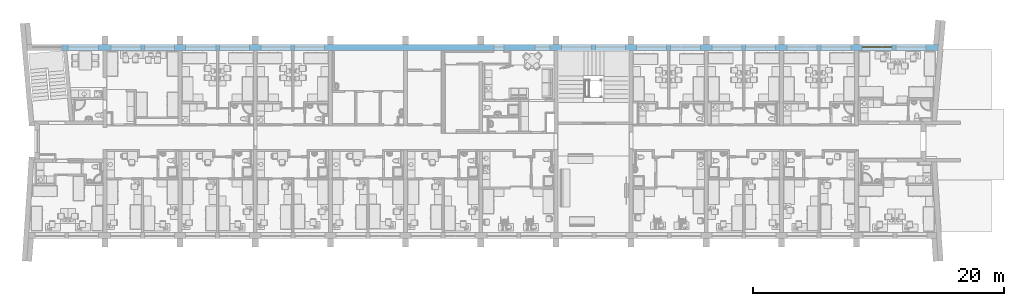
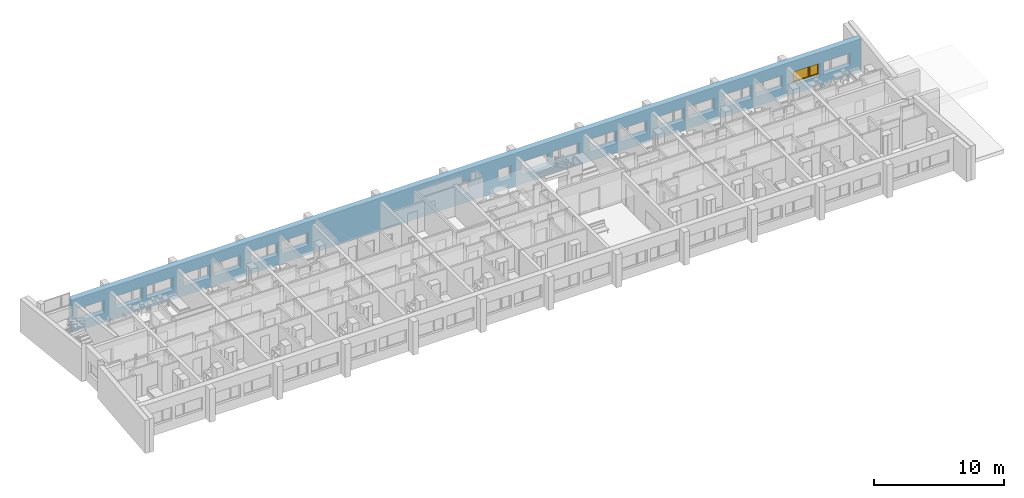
# One storey, part 32 of 172: 1 window, 19 openings, plus 1 element that does not belong to this part.
"""IFC2X3 building model written with IfcOpenShell, lengths in millimetres."""

from ifc_helpers import new_model, entity, si_unit, converted_unit, money_unit, direction, frame, origin_with_axes, place, context, subcontext, project, spatial, polyline, outline, extrude, open_shell, faceted_brep, surface_model, source, transform, mapped, material, material_list, layer, layer_set, layer_usage, type_object, element, fill, save


model = new_model("IFC2X3")

# Units and contexts
model_context = context("Model", 3, precision=1e-05, world=origin_with_axes(), true_north=direction((0.0, 1.0)))
body_context = subcontext(model_context, "Body", "Model", "MODEL_VIEW")
ifc_project = project(units=[si_unit("LENGTHUNIT", "METRE", prefix="MILLI"), si_unit("AREAUNIT", "SQUARE_METRE"), si_unit("VOLUMEUNIT", "CUBIC_METRE"), converted_unit("PLANEANGLEUNIT", "DEGREE", entity("IfcPlaneAngleMeasure", 0.0174532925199), si_unit("PLANEANGLEUNIT", "RADIAN"), dimensions=[0, 0, 0, 0, 0, 0, 0]), si_unit("SOLIDANGLEUNIT", "STERADIAN"), money_unit("USD"), converted_unit("TIMEUNIT", "Year", entity("IfcTimeMeasure", 31556926.0), si_unit("TIMEUNIT", "SECOND"), dimensions=[0, 0, 0, 0, 0, 0, 0]), si_unit("MASSUNIT", "GRAM"), si_unit("THERMODYNAMICTEMPERATUREUNIT", "DEGREE_CELSIUS"), si_unit("LUMINOUSINTENSITYUNIT", "LUMEN")], contexts=[model_context])

# Site, building, storey
site_placement = place(None, origin_with_axes())
site = spatial("IfcSite", under=ifc_project, at=site_placement, Name="Site", CompositionType="ELEMENT")
building_placement = place(site_placement, origin_with_axes())
building = spatial("IfcBuilding", under=site, at=building_placement, Name="Building", CompositionType="ELEMENT")
storey_placement = place(building_placement, frame((0.0, 0.0, 3200.0), z_axis=(0.0, 0.0, 1.0), x_axis=(1.0, 0.0, 0.0)))
storey = spatial("IfcBuildingStorey", under=building, at=storey_placement, Name="3KORRUS", CompositionType="ELEMENT", Elevation=3200.0)

# Wall, openings, window
ifc_material_1 = material(Name="Olemasolevad seinad tellis, uus viimistlus")
ifc_layer = layer(ifc_material_1, 500.0, ventilated="UNKNOWN")
ifc_layer_set = layer_set([ifc_layer], Name="Olemasolevad seinad tellis, uus viimistlus 500")
ifc_layer_usage = layer_usage(ifc_layer_set, "AXIS2", "POSITIVE", -100.0)
wall_type = type_object("IfcWallType", Name="Olemasolevad seinad tellis, uus viimistlus 500", PredefinedType="NOTDEFINED")
wall_placement = place(storey_placement, frame((-51569.3388124, -5039.6041088, 0.0), z_axis=(0.0, 0.0, 1.0), x_axis=(1.0, 0.0, 0.0)))
wall = element("IfcWallStandardCase", 1, at=wall_placement, inside=storey, type_object=wall_type, material=ifc_layer_usage, Name="VS1", ObjectType="VS1", context=body_context, shape_type="SweptSolid", body=[
    extrude(outline(polyline([(0.0, -100.0), (69914.7195482, -100.0), (69959.6995146, 400.0), (0.0, 400.0), (0.0, -100.0)])), origin_with_axes(), (0.0, 0.0, 1.0), 3100.0),
])
opening_1_placement = place(wall_placement, frame((34879.0421091, 0.0, 900.0), z_axis=(0.0, 0.0, 1.0), x_axis=(1.0, 0.0, 0.0)))
element("IfcOpeningElement", 2, at=opening_1_placement, cuts=wall, Name="WD - 001", context=body_context, shape_type="SweptSolid", body=[
    extrude(outline(polyline([(-400.0, 1200.0), (-400.0, 0.0), (400.0, 0.0), (400.0, 1200.0), (-400.0, 1200.0)])), frame((0.0, 200.0, 0.0), z_axis=(0.0, -1.0, 0.0), x_axis=(1.0, 0.0, 0.0)), (0.0, 0.0, 1.0), 800.0),
    extrude(outline(polyline([(-400.0, 0.0), (-400.0, -1200.0), (400.0, -1200.0), (400.0, 0.0), (-400.0, 0.0)])), frame((0.0, 200.0, 0.0), z_axis=(0.0, 1.0, 0.0), x_axis=(1.0, 0.0, 0.0)), (0.0, 0.0, 1.0), 700.0),
])
opening_2_placement = place(wall_placement, frame((38352.6323068, 0.0, 900.0), z_axis=(0.0, 0.0, 1.0), x_axis=(1.0, 0.0, 0.0)))
element("IfcOpeningElement", 3, at=opening_2_placement, cuts=wall, Name="A3", context=body_context, shape_type="SweptSolid", body=[
    extrude(outline(polyline([(-600.0, 1200.0), (-600.0, 0.0), (600.0, 0.0), (600.0, 1200.0), (-600.0, 1200.0)])), frame((0.0, 200.0, 0.0), z_axis=(0.0, -1.0, 0.0), x_axis=(1.0, 0.0, 0.0)), (0.0, 0.0, 1.0), 800.0),
    extrude(outline(polyline([(-600.0, 0.0), (-600.0, -1200.0), (600.0, -1200.0), (600.0, 0.0), (-600.0, 0.0)])), frame((0.0, 200.0, 0.0), z_axis=(0.0, 1.0, 0.0), x_axis=(1.0, 0.0, 0.0)), (0.0, 0.0, 1.0), 700.0),
])
opening_3_placement = place(wall_placement, frame((1700.0, 0.0, 900.0), z_axis=(0.0, 0.0, 1.0), x_axis=(1.0, 0.0, 0.0)))
element("IfcOpeningElement", 4, at=opening_3_placement, cuts=wall, Name="A1", context=body_context, shape_type="SweptSolid", body=[
    extrude(outline(polyline([(1200.0, 1200.0), (-1200.0, 1200.0), (-1200.0, 0.0), (1200.0, 0.0), (1200.0, 1200.0)])), frame((0.0, 200.0, 0.0), z_axis=(0.0, -1.0, 0.0), x_axis=(1.0, 0.0, 0.0)), (0.0, 0.0, 1.0), 800.0),
    extrude(outline(polyline([(1200.0, 0.0), (-1200.0, 0.0), (-1200.0, -1200.0), (1200.0, -1200.0), (1200.0, 0.0)])), frame((0.0, 200.0, 0.0), z_axis=(0.0, 1.0, 0.0), x_axis=(1.0, 0.0, 0.0)), (0.0, 0.0, 1.0), 700.0),
])
opening_4_placement = place(wall_placement, frame((7795.91085613, 0.0, 900.0), z_axis=(0.0, 0.0, 1.0), x_axis=(1.0, 0.0, 0.0)))
element("IfcOpeningElement", 5, at=opening_4_placement, cuts=wall, Name="A1", context=body_context, shape_type="SweptSolid", body=[
    extrude(outline(polyline([(1200.0, 1200.0), (-1200.0, 1200.0), (-1200.0, 0.0), (1200.0, 0.0), (1200.0, 1200.0)])), frame((0.0, 200.0, 0.0), z_axis=(0.0, -1.0, 0.0), x_axis=(1.0, 0.0, 0.0)), (0.0, 0.0, 1.0), 800.0),
    extrude(outline(polyline([(1200.0, 0.0), (-1200.0, 0.0), (-1200.0, -1200.0), (1200.0, -1200.0), (1200.0, 0.0)])), frame((0.0, 200.0, 0.0), z_axis=(0.0, 1.0, 0.0), x_axis=(1.0, 0.0, 0.0)), (0.0, 0.0, 1.0), 700.0),
])
opening_5_placement = place(wall_placement, frame((5095.91085613, 0.0, 900.0), z_axis=(0.0, 0.0, 1.0), x_axis=(1.0, 0.0, 0.0)))
element("IfcOpeningElement", 6, at=opening_5_placement, cuts=wall, Name="A2", context=body_context, shape_type="SweptSolid", body=[
    extrude(outline(polyline([(-1200.0, 1200.0), (-1200.0, 0.0), (1200.0, 0.0), (1200.0, 1200.0), (-1200.0, 1200.0)])), frame((0.0, 200.0, 0.0), z_axis=(0.0, -1.0, 0.0), x_axis=(1.0, 0.0, 0.0)), (0.0, 0.0, 1.0), 800.0),
    extrude(outline(polyline([(-1200.0, 0.0), (-1200.0, -1200.0), (1200.0, -1200.0), (1200.0, 0.0), (-1200.0, 0.0)])), frame((0.0, 200.0, 0.0), z_axis=(0.0, 1.0, 0.0), x_axis=(1.0, 0.0, 0.0)), (0.0, 0.0, 1.0), 700.0),
])
opening_6_placement = place(wall_placement, frame((13779.0421091, 0.0, 900.0), z_axis=(0.0, 0.0, 1.0), x_axis=(1.0, 0.0, 0.0)))
element("IfcOpeningElement", 7, at=opening_6_placement, cuts=wall, Name="A1", context=body_context, shape_type="SweptSolid", body=[
    extrude(outline(polyline([(1200.0, 1200.0), (-1200.0, 1200.0), (-1200.0, 0.0), (1200.0, 0.0), (1200.0, 1200.0)])), frame((0.0, 200.0, 0.0), z_axis=(0.0, -1.0, 0.0), x_axis=(1.0, 0.0, 0.0)), (0.0, 0.0, 1.0), 800.0),
    extrude(outline(polyline([(1200.0, 0.0), (-1200.0, 0.0), (-1200.0, -1200.0), (1200.0, -1200.0), (1200.0, 0.0)])), frame((0.0, 200.0, 0.0), z_axis=(0.0, 1.0, 0.0), x_axis=(1.0, 0.0, 0.0)), (0.0, 0.0, 1.0), 700.0),
])
opening_7_placement = place(wall_placement, frame((11079.0421091, 0.0, 900.0), z_axis=(0.0, 0.0, 1.0), x_axis=(1.0, 0.0, 0.0)))
element("IfcOpeningElement", 8, at=opening_7_placement, cuts=wall, Name="A2", context=body_context, shape_type="SweptSolid", body=[
    extrude(outline(polyline([(-1200.0, 1200.0), (-1200.0, 0.0), (1200.0, 0.0), (1200.0, 1200.0), (-1200.0, 1200.0)])), frame((0.0, 200.0, 0.0), z_axis=(0.0, -1.0, 0.0), x_axis=(1.0, 0.0, 0.0)), (0.0, 0.0, 1.0), 800.0),
    extrude(outline(polyline([(-1200.0, 0.0), (-1200.0, -1200.0), (1200.0, -1200.0), (1200.0, 0.0), (-1200.0, 0.0)])), frame((0.0, 200.0, 0.0), z_axis=(0.0, 1.0, 0.0), x_axis=(1.0, 0.0, 0.0)), (0.0, 0.0, 1.0), 700.0),
])
opening_8_placement = place(wall_placement, frame((43769.0421091, 0.0, 900.0), z_axis=(0.0, 0.0, 1.0), x_axis=(1.0, 0.0, 0.0)))
element("IfcOpeningElement", 9, at=opening_8_placement, cuts=wall, Name="A1", context=body_context, shape_type="SweptSolid", body=[
    extrude(outline(polyline([(1200.0, 1200.0), (-1200.0, 1200.0), (-1200.0, 0.0), (1200.0, 0.0), (1200.0, 1200.0)])), frame((0.0, 200.0, 0.0), z_axis=(0.0, -1.0, 0.0), x_axis=(1.0, 0.0, 0.0)), (0.0, 0.0, 1.0), 800.0),
    extrude(outline(polyline([(1200.0, 0.0), (-1200.0, 0.0), (-1200.0, -1200.0), (1200.0, -1200.0), (1200.0, 0.0)])), frame((0.0, 200.0, 0.0), z_axis=(0.0, 1.0, 0.0), x_axis=(1.0, 0.0, 0.0)), (0.0, 0.0, 1.0), 700.0),
])
opening_9_placement = place(wall_placement, frame((41069.0421091, 0.0, 900.0), z_axis=(0.0, 0.0, 1.0), x_axis=(1.0, 0.0, 0.0)))
element("IfcOpeningElement", 10, at=opening_9_placement, cuts=wall, Name="A2", context=body_context, shape_type="SweptSolid", body=[
    extrude(outline(polyline([(-1200.0, 1200.0), (-1200.0, 0.0), (1200.0, 0.0), (1200.0, 1200.0), (-1200.0, 1200.0)])), frame((0.0, 200.0, 0.0), z_axis=(0.0, -1.0, 0.0), x_axis=(1.0, 0.0, 0.0)), (0.0, 0.0, 1.0), 800.0),
    extrude(outline(polyline([(-1200.0, 0.0), (-1200.0, -1200.0), (1200.0, -1200.0), (1200.0, 0.0), (-1200.0, 0.0)])), frame((0.0, 200.0, 0.0), z_axis=(0.0, 1.0, 0.0), x_axis=(1.0, 0.0, 0.0)), (0.0, 0.0, 1.0), 700.0),
])
opening_10_placement = place(wall_placement, frame((49769.0421091, 0.0, 900.0), z_axis=(0.0, 0.0, 1.0), x_axis=(1.0, 0.0, 0.0)))
element("IfcOpeningElement", 11, at=opening_10_placement, cuts=wall, Name="A1", context=body_context, shape_type="SweptSolid", body=[
    extrude(outline(polyline([(1200.0, 1200.0), (-1200.0, 1200.0), (-1200.0, 0.0), (1200.0, 0.0), (1200.0, 1200.0)])), frame((0.0, 200.0, 0.0), z_axis=(0.0, -1.0, 0.0), x_axis=(1.0, 0.0, 0.0)), (0.0, 0.0, 1.0), 800.0),
    extrude(outline(polyline([(1200.0, 0.0), (-1200.0, 0.0), (-1200.0, -1200.0), (1200.0, -1200.0), (1200.0, 0.0)])), frame((0.0, 200.0, 0.0), z_axis=(0.0, 1.0, 0.0), x_axis=(1.0, 0.0, 0.0)), (0.0, 0.0, 1.0), 700.0),
])
opening_11_placement = place(wall_placement, frame((47069.0421091, 0.0, 900.0), z_axis=(0.0, 0.0, 1.0), x_axis=(1.0, 0.0, 0.0)))
element("IfcOpeningElement", 12, at=opening_11_placement, cuts=wall, Name="A2", context=body_context, shape_type="SweptSolid", body=[
    extrude(outline(polyline([(-1200.0, 1200.0), (-1200.0, 0.0), (1200.0, 0.0), (1200.0, 1200.0), (-1200.0, 1200.0)])), frame((0.0, 200.0, 0.0), z_axis=(0.0, -1.0, 0.0), x_axis=(1.0, 0.0, 0.0)), (0.0, 0.0, 1.0), 800.0),
    extrude(outline(polyline([(-1200.0, 0.0), (-1200.0, -1200.0), (1200.0, -1200.0), (1200.0, 0.0), (-1200.0, 0.0)])), frame((0.0, 200.0, 0.0), z_axis=(0.0, 1.0, 0.0), x_axis=(1.0, 0.0, 0.0)), (0.0, 0.0, 1.0), 700.0),
])
opening_12_placement = place(wall_placement, frame((55769.0421091, 0.0, 900.0), z_axis=(0.0, 0.0, 1.0), x_axis=(1.0, 0.0, 0.0)))
element("IfcOpeningElement", 13, at=opening_12_placement, cuts=wall, Name="A1", context=body_context, shape_type="SweptSolid", body=[
    extrude(outline(polyline([(1200.0, 1200.0), (-1200.0, 1200.0), (-1200.0, 0.0), (1200.0, 0.0), (1200.0, 1200.0)])), frame((0.0, 200.0, 0.0), z_axis=(0.0, -1.0, 0.0), x_axis=(1.0, 0.0, 0.0)), (0.0, 0.0, 1.0), 800.0),
    extrude(outline(polyline([(1200.0, 0.0), (-1200.0, 0.0), (-1200.0, -1200.0), (1200.0, -1200.0), (1200.0, 0.0)])), frame((0.0, 200.0, 0.0), z_axis=(0.0, 1.0, 0.0), x_axis=(1.0, 0.0, 0.0)), (0.0, 0.0, 1.0), 700.0),
])
opening_13_placement = place(wall_placement, frame((53069.0421091, 0.0, 900.0), z_axis=(0.0, 0.0, 1.0), x_axis=(1.0, 0.0, 0.0)))
element("IfcOpeningElement", 14, at=opening_13_placement, cuts=wall, Name="A2", context=body_context, shape_type="SweptSolid", body=[
    extrude(outline(polyline([(-1200.0, 1200.0), (-1200.0, 0.0), (1200.0, 0.0), (1200.0, 1200.0), (-1200.0, 1200.0)])), frame((0.0, 200.0, 0.0), z_axis=(0.0, -1.0, 0.0), x_axis=(1.0, 0.0, 0.0)), (0.0, 0.0, 1.0), 800.0),
    extrude(outline(polyline([(-1200.0, 0.0), (-1200.0, -1200.0), (1200.0, -1200.0), (1200.0, 0.0), (-1200.0, 0.0)])), frame((0.0, 200.0, 0.0), z_axis=(0.0, 1.0, 0.0), x_axis=(1.0, 0.0, 0.0)), (0.0, 0.0, 1.0), 700.0),
])
opening_14_placement = place(wall_placement, frame((61769.0421091, 0.0, 900.0), z_axis=(0.0, 0.0, 1.0), x_axis=(1.0, 0.0, 0.0)))
element("IfcOpeningElement", 15, at=opening_14_placement, cuts=wall, Name="A1", context=body_context, shape_type="SweptSolid", body=[
    extrude(outline(polyline([(1200.0, 1200.0), (-1200.0, 1200.0), (-1200.0, 0.0), (1200.0, 0.0), (1200.0, 1200.0)])), frame((0.0, 200.0, 0.0), z_axis=(0.0, -1.0, 0.0), x_axis=(1.0, 0.0, 0.0)), (0.0, 0.0, 1.0), 800.0),
    extrude(outline(polyline([(1200.0, 0.0), (-1200.0, 0.0), (-1200.0, -1200.0), (1200.0, -1200.0), (1200.0, 0.0)])), frame((0.0, 200.0, 0.0), z_axis=(0.0, 1.0, 0.0), x_axis=(1.0, 0.0, 0.0)), (0.0, 0.0, 1.0), 700.0),
])
opening_15_placement = place(wall_placement, frame((59069.0421091, 0.0, 900.0), z_axis=(0.0, 0.0, 1.0), x_axis=(1.0, 0.0, 0.0)))
element("IfcOpeningElement", 16, at=opening_15_placement, cuts=wall, Name="A2", context=body_context, shape_type="SweptSolid", body=[
    extrude(outline(polyline([(-1200.0, 1200.0), (-1200.0, 0.0), (1200.0, 0.0), (1200.0, 1200.0), (-1200.0, 1200.0)])), frame((0.0, 200.0, 0.0), z_axis=(0.0, -1.0, 0.0), x_axis=(1.0, 0.0, 0.0)), (0.0, 0.0, 1.0), 800.0),
    extrude(outline(polyline([(-1200.0, 0.0), (-1200.0, -1200.0), (1200.0, -1200.0), (1200.0, 0.0), (-1200.0, 0.0)])), frame((0.0, 200.0, 0.0), z_axis=(0.0, 1.0, 0.0), x_axis=(1.0, 0.0, 0.0)), (0.0, 0.0, 1.0), 700.0),
])
opening_16_placement = place(wall_placement, frame((67773.3244043, 0.0, 900.0), z_axis=(0.0, 0.0, 1.0), x_axis=(1.0, 0.0, 0.0)))
element("IfcOpeningElement", 17, at=opening_16_placement, cuts=wall, Name="A1", context=body_context, shape_type="SweptSolid", body=[
    extrude(outline(polyline([(1200.0, 1200.0), (-1200.0, 1200.0), (-1200.0, 0.0), (1200.0, 0.0), (1200.0, 1200.0)])), frame((0.0, 200.0, 0.0), z_axis=(0.0, -1.0, 0.0), x_axis=(1.0, 0.0, 0.0)), (0.0, 0.0, 1.0), 800.0),
    extrude(outline(polyline([(1200.0, 0.0), (-1200.0, 0.0), (-1200.0, -1200.0), (1200.0, -1200.0), (1200.0, 0.0)])), frame((0.0, 200.0, 0.0), z_axis=(0.0, 1.0, 0.0), x_axis=(1.0, 0.0, 0.0)), (0.0, 0.0, 1.0), 700.0),
])
opening_17_placement = place(wall_placement, frame((65073.3244043, 0.0, 900.0), z_axis=(0.0, 0.0, 1.0), x_axis=(1.0, 0.0, 0.0)))
opening_17 = element("IfcOpeningElement", 18, at=opening_17_placement, cuts=wall, Name="A2", context=body_context, shape_type="SweptSolid", body=[
    extrude(outline(polyline([(-1200.0, 1200.0), (-1200.0, 0.0), (1200.0, 0.0), (1200.0, 1200.0), (-1200.0, 1200.0)])), frame((0.0, 200.0, 0.0), z_axis=(0.0, -1.0, 0.0), x_axis=(1.0, 0.0, 0.0)), (0.0, 0.0, 1.0), 800.0),
    extrude(outline(polyline([(-1200.0, 0.0), (-1200.0, -1200.0), (1200.0, -1200.0), (1200.0, 0.0), (-1200.0, 0.0)])), frame((0.0, 200.0, 0.0), z_axis=(0.0, 1.0, 0.0), x_axis=(1.0, 0.0, 0.0)), (0.0, 0.0, 1.0), 700.0),
])
opening_18_placement = place(wall_placement, frame((19767.4765851, 0.0, 900.0), z_axis=(0.0, 0.0, 1.0), x_axis=(1.0, 0.0, 0.0)))
element("IfcOpeningElement", 19, at=opening_18_placement, cuts=wall, Name="A1", context=body_context, shape_type="SweptSolid", body=[
    extrude(outline(polyline([(1200.0, 1200.0), (-1200.0, 1200.0), (-1200.0, 0.0), (1200.0, 0.0), (1200.0, 1200.0)])), frame((0.0, 200.0, 0.0), z_axis=(0.0, -1.0, 0.0), x_axis=(1.0, 0.0, 0.0)), (0.0, 0.0, 1.0), 800.0),
    extrude(outline(polyline([(1200.0, 0.0), (-1200.0, 0.0), (-1200.0, -1200.0), (1200.0, -1200.0), (1200.0, 0.0)])), frame((0.0, 200.0, 0.0), z_axis=(0.0, 1.0, 0.0), x_axis=(1.0, 0.0, 0.0)), (0.0, 0.0, 1.0), 700.0),
])
opening_19_placement = place(wall_placement, frame((17067.4765851, 0.0, 900.0), z_axis=(0.0, 0.0, 1.0), x_axis=(1.0, 0.0, 0.0)))
element("IfcOpeningElement", 20, at=opening_19_placement, cuts=wall, Name="A2", context=body_context, shape_type="SweptSolid", body=[
    extrude(outline(polyline([(-1200.0, 1200.0), (-1200.0, 0.0), (1200.0, 0.0), (1200.0, 1200.0), (-1200.0, 1200.0)])), frame((0.0, 200.0, 0.0), z_axis=(0.0, -1.0, 0.0), x_axis=(1.0, 0.0, 0.0)), (0.0, 0.0, 1.0), 800.0),
    extrude(outline(polyline([(-1200.0, 0.0), (-1200.0, -1200.0), (1200.0, -1200.0), (1200.0, 0.0), (-1200.0, 0.0)])), frame((0.0, 200.0, 0.0), z_axis=(0.0, 1.0, 0.0), x_axis=(1.0, 0.0, 0.0)), (0.0, 0.0, 1.0), 700.0),
])
ifc_material_2 = material(Name="Background")
ifc_material_list = material_list([ifc_material_2])
window_style = type_object("IfcWindowStyle", Name="Double Window 19", ConstructionType="NOTDEFINED", OperationType="DOUBLE_PANEL_VERTICAL", ParameterTakesPrecedence=False, Sizeable=False)
shared_shape = source(origin_with_axes(), body_context, "Body", "SurfaceModel", [
    faceted_brep([(-1175.0, -200.0, 1150.0), (-1200.0, -200.0, 1150.0), (-1200.0, -250.0, 1150.0), (-1150.0, -250.0, 1150.0), (-1150.0, -225.0, 1150.0), (-1175.0, -225.0, 1150.0), (-1175.0, -200.0, 50.0), (-1200.0, -200.0, 50.0), (-1200.0, -250.0, 50.0), (-1150.0, -250.0, 50.0), (-1150.0, -225.0, 50.0), (-1175.0, -225.0, 50.0)], [[[0, 1, 2, 3, 4, 5]], [[6, 7, 1, 0]], [[1, 7, 8, 2]], [[2, 8, 9, 3]], [[4, 3, 9, 10]], [[10, 11, 5, 4]], [[5, 11, 6, 0]], [[11, 10, 9, 8, 7, 6]]]),
    faceted_brep([(1150.0, -225.0, 1150.0), (1150.0, -250.0, 1150.0), (1200.0, -250.0, 1150.0), (1200.0, -200.0, 1150.0), (1175.0, -200.0, 1150.0), (1175.0, -225.0, 1150.0), (1150.0, -225.0, 50.0), (1150.0, -250.0, 50.0), (1200.0, -250.0, 50.0), (1200.0, -200.0, 50.0), (1175.0, -200.0, 50.0), (1175.0, -225.0, 50.0)], [[[0, 1, 2, 3, 4, 5]], [[6, 7, 1, 0]], [[8, 2, 1, 7]], [[9, 3, 2, 8]], [[4, 3, 9, 10]], [[10, 11, 5, 4]], [[5, 11, 6, 0]], [[11, 10, 9, 8, 7, 6]]]),
    faceted_brep([(350.0, -225.0, 1150.0), (350.0, -250.0, 1150.0), (450.0, -250.0, 1150.0), (450.0, -225.0, 1150.0), (425.0, -225.0, 1150.0), (425.0, -200.0, 1150.0), (375.0, -200.0, 1150.0), (375.0, -225.0, 1150.0), (350.0, -225.0, 50.0), (350.0, -250.0, 50.0), (450.0, -250.0, 50.0), (450.0, -225.0, 50.0), (425.0, -225.0, 50.0), (425.0, -200.0, 50.0), (375.0, -200.0, 50.0), (375.0, -225.0, 50.0)], [[[0, 1, 2, 3, 4, 5, 6, 7]], [[8, 9, 1, 0]], [[10, 2, 1, 9]], [[3, 2, 10, 11]], [[11, 12, 4, 3]], [[4, 12, 13, 5]], [[6, 5, 13, 14]], [[14, 15, 7, 6]], [[7, 15, 8, 0]], [[15, 14, 13, 12, 11, 10, 9, 8]]]),
    faceted_brep([(350.0, -225.0, 50.0), (350.0, -250.0, 50.0), (450.0, -250.0, 50.0), (450.0, -225.0, 50.0), (425.0, -225.0, 50.0), (425.0, -200.0, 50.0), (375.0, -200.0, 50.0), (375.0, -225.0, 50.0), (-1150.0, -225.0, 50.0), (-1150.0, -250.0, 50.0), (-1200.0, -250.0, 50.0), (-1200.0, -250.0, 0.0), (1200.0, -250.0, 0.0), (1200.0, -250.0, 50.0), (1150.0, -250.0, 50.0), (1150.0, -225.0, 50.0), (1175.0, -225.0, 50.0), (1175.0, -225.0, 25.0), (425.0, -225.0, 25.0), (425.0, -200.0, 25.0), (-1175.0, -200.0, 25.0), (375.0, -200.0, 25.0), (1175.0, -200.0, 25.0), (1175.0, -200.0, 50.0), (1200.0, -200.0, 50.0), (1200.0, -200.0, 0.0), (-1200.0, -200.0, 0.0), (-1200.0, -200.0, 50.0), (-1175.0, -200.0, 50.0), (375.0, -225.0, 25.0), (-1175.0, -225.0, 25.0), (-1175.0, -225.0, 50.0)], [[[0, 1, 2, 3, 4, 5, 6, 7]], [[8, 9, 1, 0]], [[10, 11, 12, 13, 14, 2, 1, 9]], [[3, 2, 14, 15]], [[16, 17, 18, 4, 3, 15]], [[4, 18, 19, 5]], [[20, 21, 6, 5, 19, 22, 23, 24, 25, 26, 27, 28]], [[21, 29, 7, 6]], [[7, 29, 30, 31, 8, 0]], [[31, 28, 27, 10, 9, 8]], [[27, 26, 11, 10]], [[26, 25, 12, 11]], [[25, 24, 13, 12]], [[15, 14, 13, 24, 23, 16]], [[22, 17, 16, 23]], [[19, 18, 17, 22]], [[20, 30, 29, 21]], [[31, 30, 20, 28]]]),
    faceted_brep([(-1175.0, -200.0, 1150.0), (-1200.0, -200.0, 1150.0), (-1200.0, -200.0, 1200.0), (1200.0, -200.0, 1200.0), (1200.0, -200.0, 1150.0), (1175.0, -200.0, 1150.0), (1175.0, -200.0, 1175.0), (425.0, -200.0, 1175.0), (425.0, -200.0, 1150.0), (375.0, -200.0, 1150.0), (375.0, -200.0, 1175.0), (-1175.0, -200.0, 1175.0), (-1175.0, -225.0, 1150.0), (-1150.0, -225.0, 1150.0), (-1150.0, -250.0, 1150.0), (-1200.0, -250.0, 1150.0), (-1200.0, -250.0, 1200.0), (1200.0, -250.0, 1200.0), (1200.0, -250.0, 1150.0), (1175.0, -225.0, 1150.0), (1150.0, -250.0, 1150.0), (1150.0, -225.0, 1150.0), (1175.0, -225.0, 1175.0), (425.0, -225.0, 1175.0), (425.0, -225.0, 1150.0), (375.0, -225.0, 1150.0), (450.0, -225.0, 1150.0), (450.0, -250.0, 1150.0), (350.0, -250.0, 1150.0), (350.0, -225.0, 1150.0), (375.0, -225.0, 1175.0), (-1175.0, -225.0, 1175.0)], [[[0, 1, 2, 3, 4, 5, 6, 7, 8, 9, 10, 11]], [[12, 13, 14, 15, 1, 0]], [[2, 1, 15, 16]], [[3, 2, 16, 17]], [[4, 3, 17, 18]], [[19, 5, 4, 18, 20, 21]], [[5, 19, 22, 6]], [[6, 22, 23, 7]], [[7, 23, 24, 8]], [[25, 9, 8, 24, 26, 27, 28, 29]], [[9, 25, 30, 10]], [[10, 30, 31, 11]], [[11, 31, 12, 0]], [[29, 13, 12, 31, 30, 25]], [[29, 28, 14, 13]], [[27, 20, 18, 17, 16, 15, 14, 28]], [[21, 20, 27, 26]], [[21, 26, 24, 23, 22, 19]]]),
    faceted_brep([(-1125.0, -225.0, 1125.0), (-1125.0, -175.0, 1125.0), (-1175.0, -175.0, 1125.0), (-1175.0, -225.0, 1125.0), (-1125.0, -225.0, 75.0), (-1125.0, -175.0, 75.0), (-1175.0, -175.0, 75.0), (-1175.0, -225.0, 75.0)], [[[0, 1, 2, 3]], [[4, 5, 1, 0]], [[1, 5, 6, 2]], [[3, 2, 6, 7]], [[0, 3, 7, 4]], [[7, 6, 5, 4]]]),
    faceted_brep([(325.0, -225.0, 75.0), (325.0, -175.0, 75.0), (375.0, -175.0, 75.0), (375.0, -225.0, 75.0), (325.0, -225.0, 1125.0), (325.0, -175.0, 1125.0), (375.0, -175.0, 1125.0), (375.0, -225.0, 1125.0)], [[[0, 1, 2, 3]], [[4, 5, 1, 0]], [[1, 5, 6, 2]], [[3, 2, 6, 7]], [[0, 3, 7, 4]], [[7, 6, 5, 4]]]),
    faceted_brep([(375.0, -225.0, 25.0), (375.0, -175.0, 25.0), (375.0, -175.0, 75.0), (375.0, -225.0, 75.0), (-1175.0, -225.0, 25.0), (-1175.0, -175.0, 25.0), (-1175.0, -175.0, 75.0), (-1125.0, -175.0, 75.0), (325.0, -175.0, 75.0), (325.0, -225.0, 75.0), (-1125.0, -225.0, 75.0), (-1175.0, -225.0, 75.0)], [[[0, 1, 2, 3]], [[4, 5, 1, 0]], [[1, 5, 6, 7, 8, 2]], [[3, 2, 8, 9]], [[0, 3, 9, 10, 11, 4]], [[11, 6, 5, 4]], [[10, 7, 6, 11]], [[9, 8, 7, 10]]]),
    faceted_brep([(-1175.0, -225.0, 1175.0), (-1175.0, -175.0, 1175.0), (-1175.0, -175.0, 1125.0), (-1175.0, -225.0, 1125.0), (375.0, -225.0, 1175.0), (375.0, -175.0, 1175.0), (375.0, -175.0, 1125.0), (325.0, -175.0, 1125.0), (-1125.0, -175.0, 1125.0), (-1125.0, -225.0, 1125.0), (325.0, -225.0, 1125.0), (375.0, -225.0, 1125.0)], [[[0, 1, 2, 3]], [[4, 5, 1, 0]], [[1, 5, 6, 7, 8, 2]], [[3, 2, 8, 9]], [[0, 3, 9, 10, 11, 4]], [[11, 6, 5, 4]], [[10, 7, 6, 11]], [[9, 8, 7, 10]]]),
    surface_model("IfcShellBasedSurfaceModel", [(-1125.0, -210.0, 75.0), (325.0, -210.0, 75.0), (325.0, -210.0, 1125.0), (-1125.0, -210.0, 1125.0)], [open_shell([[[0, 1, 2, 3]]])]),
    surface_model("IfcShellBasedSurfaceModel", [(-1125.0, -190.0, 75.0), (-1125.0, -190.0, 1125.0), (325.0, -190.0, 1125.0), (325.0, -190.0, 75.0)], [open_shell([[[0, 1, 2, 3]]])]),
    faceted_brep([(475.0, -225.0, 1125.0), (475.0, -175.0, 1125.0), (425.0, -175.0, 1125.0), (425.0, -225.0, 1125.0), (475.0, -225.0, 75.0), (475.0, -175.0, 75.0), (425.0, -175.0, 75.0), (425.0, -225.0, 75.0)], [[[0, 1, 2, 3]], [[4, 5, 1, 0]], [[1, 5, 6, 2]], [[3, 2, 6, 7]], [[0, 3, 7, 4]], [[7, 6, 5, 4]]]),
    faceted_brep([(1125.0, -225.0, 75.0), (1125.0, -175.0, 75.0), (1175.0, -175.0, 75.0), (1175.0, -225.0, 75.0), (1125.0, -225.0, 1125.0), (1125.0, -175.0, 1125.0), (1175.0, -175.0, 1125.0), (1175.0, -225.0, 1125.0)], [[[0, 1, 2, 3]], [[4, 5, 1, 0]], [[1, 5, 6, 2]], [[3, 2, 6, 7]], [[0, 3, 7, 4]], [[7, 6, 5, 4]]]),
    faceted_brep([(1175.0, -225.0, 25.0), (1175.0, -175.0, 25.0), (1175.0, -175.0, 75.0), (1175.0, -225.0, 75.0), (425.0, -225.0, 25.0), (425.0, -175.0, 25.0), (425.0, -175.0, 75.0), (475.0, -175.0, 75.0), (1125.0, -175.0, 75.0), (1125.0, -225.0, 75.0), (475.0, -225.0, 75.0), (425.0, -225.0, 75.0)], [[[0, 1, 2, 3]], [[4, 5, 1, 0]], [[1, 5, 6, 7, 8, 2]], [[3, 2, 8, 9]], [[0, 3, 9, 10, 11, 4]], [[11, 6, 5, 4]], [[10, 7, 6, 11]], [[9, 8, 7, 10]]]),
    faceted_brep([(425.0, -225.0, 1175.0), (425.0, -175.0, 1175.0), (425.0, -175.0, 1125.0), (425.0, -225.0, 1125.0), (1175.0, -225.0, 1175.0), (1175.0, -175.0, 1175.0), (1175.0, -175.0, 1125.0), (1125.0, -175.0, 1125.0), (475.0, -175.0, 1125.0), (475.0, -225.0, 1125.0), (1125.0, -225.0, 1125.0), (1175.0, -225.0, 1125.0)], [[[0, 1, 2, 3]], [[4, 5, 1, 0]], [[1, 5, 6, 7, 8, 2]], [[3, 2, 8, 9]], [[0, 3, 9, 10, 11, 4]], [[11, 6, 5, 4]], [[10, 7, 6, 11]], [[9, 8, 7, 10]]]),
    surface_model("IfcShellBasedSurfaceModel", [(475.0, -210.0, 75.0), (1125.0, -210.0, 75.0), (1125.0, -210.0, 1125.0), (475.0, -210.0, 1125.0)], [open_shell([[[0, 1, 2, 3]]])]),
    surface_model("IfcShellBasedSurfaceModel", [(475.0, -190.0, 75.0), (475.0, -190.0, 1125.0), (1125.0, -190.0, 1125.0), (1125.0, -190.0, 75.0)], [open_shell([[[0, 1, 2, 3]]])]),
])
window_placement = place(opening_17_placement, frame((-1200.0, 0.0, 0.0), z_axis=(0.0, 0.0, 1.0), x_axis=(1.0, 0.0, 0.0)))
window = element("IfcWindow", 21, at=window_placement, inside=storey, type_object=window_style, material=ifc_material_list, Name="A2", ObjectType="A2", OverallHeight=1200.0, OverallWidth=2400.0, context=body_context, shape_type="MappedRepresentation", body=[
    mapped(shared_shape, transform((1200.0, 400.0, 0.0))),
])
fill(opening_17, window)

save(model, "model.ifc")
